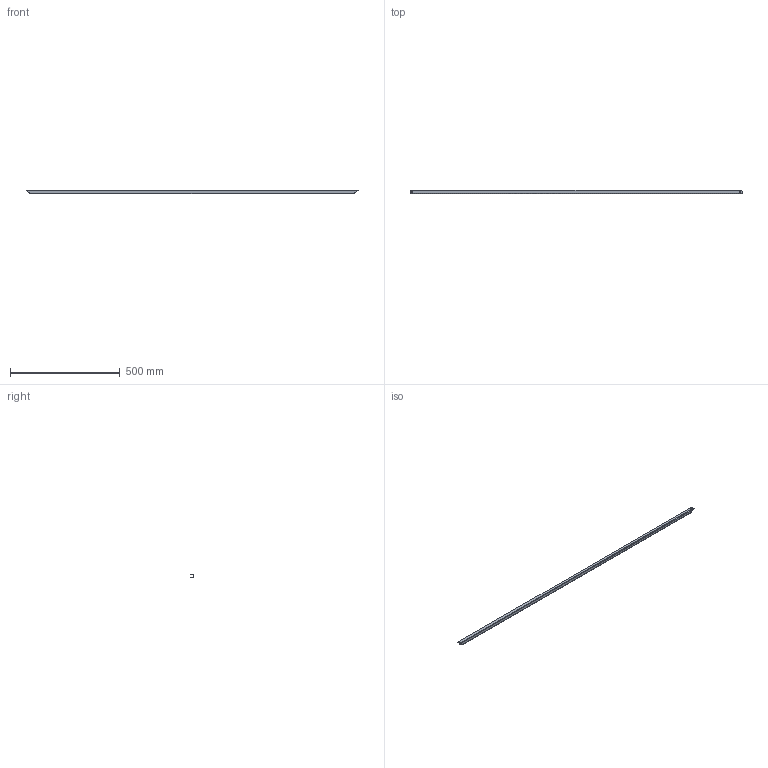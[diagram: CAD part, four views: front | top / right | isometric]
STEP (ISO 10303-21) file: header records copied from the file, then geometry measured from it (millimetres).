
FILE_DESCRIPTION (( 'STEP AP203' ), '1' );
FILE_NAME ('VB 160 Ðåéêà.STEP', '2012-11-15T06:58:00', ( 'Àëåêñàíäð' ), ( 'Ïðîâåíòî' ), 'SwSTEP 2.0', 'SolidWorks 2012', '' );
FILE_SCHEMA (( 'CONFIG_CONTROL_DESIGN' ));
Length unit declared in the file: millimetre
Products named in the file (1): VB 160 Ðåéêà
Bounding box: 1510 x 15 x 15.5 mm (x, y, z)
Volume: 73192.7 mm3; surface area: 126632.1 mm2
Topology: 1 solids, 1 shells, 154 faces, 456 edges, 304 vertices
Faces by surface type: cylinder 130, plane 24
Entity records: 5645 total; most frequent: DIRECTION 1022, CARTESIAN_POINT 951, ORIENTED_EDGE 912, EDGE_CURVE 456, AXIS2_PLACEMENT_3D 415, VERTEX_POINT 304, EDGE_LOOP 274, CIRCLE 260
